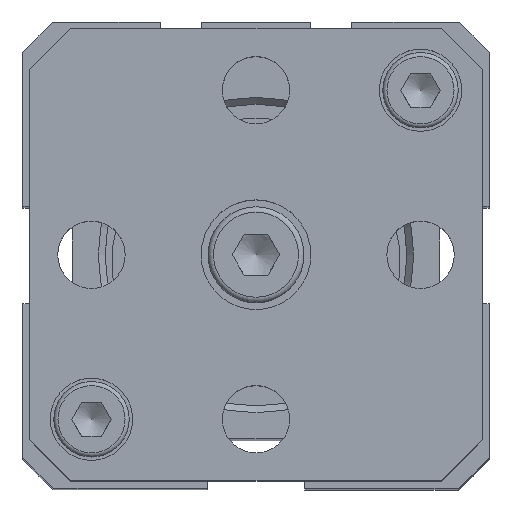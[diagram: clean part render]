
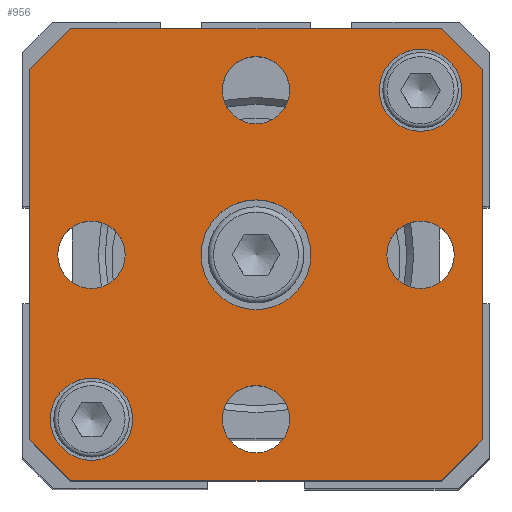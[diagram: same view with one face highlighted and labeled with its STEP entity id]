
A CAD part, top view. The second image highlights one B-rep face of the part: STEP entity #956.
In plain terms, the highlighted planar face has unit normal (0, 0, 1).
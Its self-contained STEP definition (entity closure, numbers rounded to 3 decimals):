
#273=CARTESIAN_POINT('',(9.24,13.683,93.0));
#274=VERTEX_POINT('',#273);
#275=CARTESIAN_POINT('',(12.24,13.683,93.0));
#276=DIRECTION('',(0.0,0.0,-1.0));
#277=DIRECTION('',(-1.0,0.0,0.0));
#278=AXIS2_PLACEMENT_3D('',#275,#276,#277);
#279=CIRCLE('',#278,3.);
#280=EDGE_CURVE('',#274,#274,#279,.T.);
#342=CARTESIAN_POINT('',(-14.76,-10.317,93.0));
#343=VERTEX_POINT('',#342);
#344=CARTESIAN_POINT('',(-11.76,-10.317,93.0));
#345=DIRECTION('',(0.0,0.0,-1.0));
#346=DIRECTION('',(-1.0,0.0,0.0));
#347=AXIS2_PLACEMENT_3D('',#344,#345,#346);
#348=CIRCLE('',#347,3.);
#349=EDGE_CURVE('',#343,#343,#348,.T.);
#383=CARTESIAN_POINT('',(-14.218,1.683,93.0));
#384=VERTEX_POINT('',#383);
#385=CARTESIAN_POINT('',(-11.76,1.683,93.0));
#386=DIRECTION('',(0.0,0.0,-1.0));
#387=DIRECTION('',(-1.0,0.0,0.0));
#388=AXIS2_PLACEMENT_3D('',#385,#386,#387);
#389=CIRCLE('',#388,2.459);
#390=EDGE_CURVE('',#384,#384,#389,.T.);
#432=CARTESIAN_POINT('',(-2.218,13.683,93.0));
#433=VERTEX_POINT('',#432);
#434=CARTESIAN_POINT('',(0.24,13.683,93.0));
#435=DIRECTION('',(0.0,0.0,-1.0));
#436=DIRECTION('',(-1.0,0.0,0.0));
#437=AXIS2_PLACEMENT_3D('',#434,#435,#436);
#438=CIRCLE('',#437,2.459);
#439=EDGE_CURVE('',#433,#433,#438,.T.);
#481=CARTESIAN_POINT('',(9.782,1.683,93.0));
#482=VERTEX_POINT('',#481);
#483=CARTESIAN_POINT('',(12.24,1.683,93.0));
#484=DIRECTION('',(0.0,0.0,-1.0));
#485=DIRECTION('',(-1.0,0.0,0.0));
#486=AXIS2_PLACEMENT_3D('',#483,#484,#485);
#487=CIRCLE('',#486,2.459);
#488=EDGE_CURVE('',#482,#482,#487,.T.);
#530=CARTESIAN_POINT('',(-2.218,-10.317,93.0));
#531=VERTEX_POINT('',#530);
#532=CARTESIAN_POINT('',(0.24,-10.317,93.0));
#533=DIRECTION('',(0.0,0.0,-1.0));
#534=DIRECTION('',(-1.0,0.0,0.0));
#535=AXIS2_PLACEMENT_3D('',#532,#533,#534);
#536=CIRCLE('',#535,2.459);
#537=EDGE_CURVE('',#531,#531,#536,.T.);
#579=CARTESIAN_POINT('',(-3.76,1.683,93.0));
#580=VERTEX_POINT('',#579);
#581=CARTESIAN_POINT('',(0.24,1.683,93.0));
#582=DIRECTION('',(0.0,0.0,-1.0));
#583=DIRECTION('',(-1.0,0.0,0.0));
#584=AXIS2_PLACEMENT_3D('',#581,#582,#583);
#585=CIRCLE('',#584,4.0);
#586=EDGE_CURVE('',#580,#580,#585,.T.);
#640=CARTESIAN_POINT('',(16.74,15.183,93.0));
#641=VERTEX_POINT('',#640);
#642=CARTESIAN_POINT('',(16.74,-11.817,93.0));
#643=VERTEX_POINT('',#642);
#644=CARTESIAN_POINT('',(16.74,15.183,93.0));
#645=DIRECTION('',(0.0,-1.0,0.0));
#646=VECTOR('',#645,27.);
#647=LINE('',#644,#646);
#648=EDGE_CURVE('',#641,#643,#647,.T.);
#680=CARTESIAN_POINT('',(13.74,-14.817,93.0));
#681=VERTEX_POINT('',#680);
#682=CARTESIAN_POINT('',(16.74,-11.817,93.0));
#683=DIRECTION('',(-0.707,-0.707,0.0));
#684=VECTOR('',#683,4.243);
#685=LINE('',#682,#684);
#686=EDGE_CURVE('',#643,#681,#685,.T.);
#711=CARTESIAN_POINT('',(-13.26,-14.817,93.0));
#712=VERTEX_POINT('',#711);
#713=CARTESIAN_POINT('',(13.74,-14.817,93.0));
#714=DIRECTION('',(-1.0,0.0,0.0));
#715=VECTOR('',#714,27.);
#716=LINE('',#713,#715);
#717=EDGE_CURVE('',#681,#712,#716,.T.);
#742=CARTESIAN_POINT('',(-16.26,-11.817,93.0));
#743=VERTEX_POINT('',#742);
#744=CARTESIAN_POINT('',(-13.26,-14.817,93.0));
#745=DIRECTION('',(-0.707,0.707,0.0));
#746=VECTOR('',#745,4.243);
#747=LINE('',#744,#746);
#748=EDGE_CURVE('',#712,#743,#747,.T.);
#773=CARTESIAN_POINT('',(-16.26,15.183,93.0));
#774=VERTEX_POINT('',#773);
#775=CARTESIAN_POINT('',(-16.26,-11.817,93.0));
#776=DIRECTION('',(0.0,1.0,0.0));
#777=VECTOR('',#776,27.);
#778=LINE('',#775,#777);
#779=EDGE_CURVE('',#743,#774,#778,.T.);
#804=CARTESIAN_POINT('',(-13.26,18.183,93.0));
#805=VERTEX_POINT('',#804);
#806=CARTESIAN_POINT('',(-16.26,15.183,93.0));
#807=DIRECTION('',(0.707,0.707,0.0));
#808=VECTOR('',#807,4.243);
#809=LINE('',#806,#808);
#810=EDGE_CURVE('',#774,#805,#809,.T.);
#835=CARTESIAN_POINT('',(13.74,18.183,93.0));
#836=VERTEX_POINT('',#835);
#837=CARTESIAN_POINT('',(-13.26,18.183,93.0));
#838=DIRECTION('',(1.0,0.0,0.0));
#839=VECTOR('',#838,27.);
#840=LINE('',#837,#839);
#841=EDGE_CURVE('',#805,#836,#840,.T.);
#866=CARTESIAN_POINT('',(13.74,18.183,93.0));
#867=DIRECTION('',(0.707,-0.707,0.0));
#868=VECTOR('',#867,4.243);
#869=LINE('',#866,#868);
#870=EDGE_CURVE('',#836,#641,#869,.T.);
#920=CARTESIAN_POINT('',(0.24,1.683,93.0));
#921=DIRECTION('',(0.0,0.0,1.0));
#922=DIRECTION('',(1.0,0.0,0.0));
#923=AXIS2_PLACEMENT_3D('',#920,#921,#922);
#924=PLANE('',#923);
#925=ORIENTED_EDGE('',*,*,#648,.F.);
#926=ORIENTED_EDGE('',*,*,#870,.F.);
#927=ORIENTED_EDGE('',*,*,#841,.F.);
#928=ORIENTED_EDGE('',*,*,#810,.F.);
#929=ORIENTED_EDGE('',*,*,#779,.F.);
#930=ORIENTED_EDGE('',*,*,#748,.F.);
#931=ORIENTED_EDGE('',*,*,#717,.F.);
#932=ORIENTED_EDGE('',*,*,#686,.F.);
#933=EDGE_LOOP('',(#925,#926,#927,#928,#929,#930,#931,#932));
#934=FACE_OUTER_BOUND('',#933,.T.);
#935=ORIENTED_EDGE('',*,*,#280,.T.);
#936=EDGE_LOOP('',(#935));
#937=FACE_BOUND('',#936,.T.);
#938=ORIENTED_EDGE('',*,*,#349,.T.);
#939=EDGE_LOOP('',(#938));
#940=FACE_BOUND('',#939,.T.);
#941=ORIENTED_EDGE('',*,*,#390,.T.);
#942=EDGE_LOOP('',(#941));
#943=FACE_BOUND('',#942,.T.);
#944=ORIENTED_EDGE('',*,*,#439,.T.);
#945=EDGE_LOOP('',(#944));
#946=FACE_BOUND('',#945,.T.);
#947=ORIENTED_EDGE('',*,*,#488,.T.);
#948=EDGE_LOOP('',(#947));
#949=FACE_BOUND('',#948,.T.);
#950=ORIENTED_EDGE('',*,*,#537,.T.);
#951=EDGE_LOOP('',(#950));
#952=FACE_BOUND('',#951,.T.);
#953=ORIENTED_EDGE('',*,*,#586,.T.);
#954=EDGE_LOOP('',(#953));
#955=FACE_BOUND('',#954,.T.);
#956=ADVANCED_FACE('',(#934,#937,#940,#943,#946,#949,#952,#955),#924,.T.);
